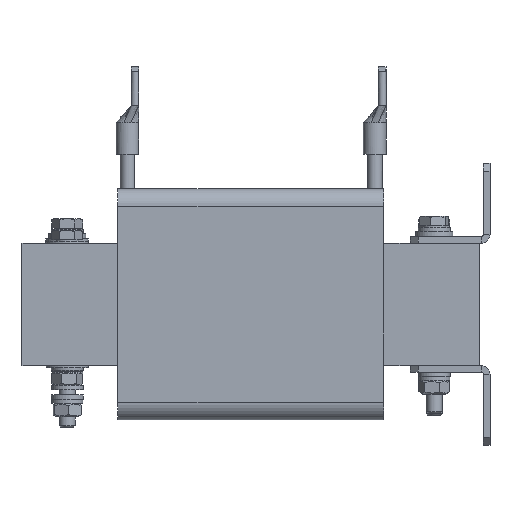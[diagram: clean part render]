
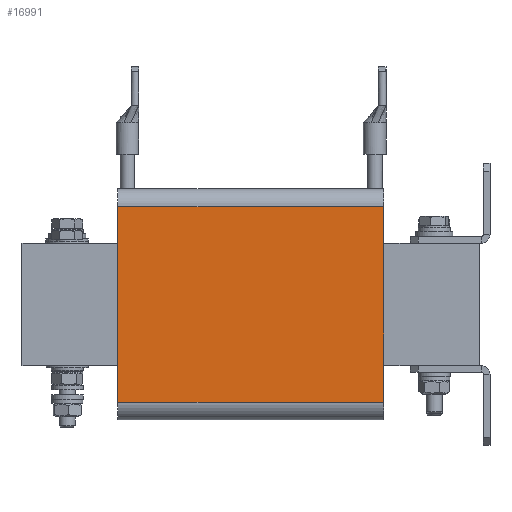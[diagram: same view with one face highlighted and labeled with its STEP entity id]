
A CAD part, left-side view. The second image highlights one B-rep face of the part: STEP entity #16991.
In plain terms, the highlighted planar face has unit normal (-1, 0, 0).
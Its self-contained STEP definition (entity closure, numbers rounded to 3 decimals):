
#1128=LINE('',#26307,#2528);
#1129=LINE('',#26313,#2529);
#1130=LINE('',#26314,#2530);
#1131=LINE('',#26315,#2531);
#2528=VECTOR('',#20780,10.);
#2529=VECTOR('',#20787,10.);
#2530=VECTOR('',#20788,10.);
#2531=VECTOR('',#20789,10.);
#3706=PLANE('',#18199);
#4894=FACE_OUTER_BOUND('',#6053,.T.);
#6053=EDGE_LOOP('',(#13250,#13251,#13252,#13253));
#8092=VERTEX_POINT('',#26305);
#8093=VERTEX_POINT('',#26306);
#8094=VERTEX_POINT('',#26311);
#8095=VERTEX_POINT('',#26312);
#10043=EDGE_CURVE('',#8092,#8093,#1128,.T.);
#10046=EDGE_CURVE('',#8094,#8095,#1129,.T.);
#10047=EDGE_CURVE('',#8092,#8094,#1130,.T.);
#10048=EDGE_CURVE('',#8095,#8093,#1131,.T.);
#13250=ORIENTED_EDGE('',*,*,#10046,.F.);
#13251=ORIENTED_EDGE('',*,*,#10047,.F.);
#13252=ORIENTED_EDGE('',*,*,#10043,.T.);
#13253=ORIENTED_EDGE('',*,*,#10048,.F.);
#16991=ADVANCED_FACE('',(#4894),#3706,.T.);
#18199=AXIS2_PLACEMENT_3D('',#26310,#20785,#20786);
#20780=DIRECTION('',(0.,-1.,0.));
#20785=DIRECTION('center_axis',(-1.,0.,0.));
#20786=DIRECTION('ref_axis',(0.,0.,1.));
#20787=DIRECTION('',(0.,-1.,0.));
#20788=DIRECTION('',(0.,0.,1.));
#20789=DIRECTION('',(0.,0.,-1.));
#26305=CARTESIAN_POINT('',(-101.,50.,-36.8));
#26306=CARTESIAN_POINT('',(-101.,-50.,-36.8));
#26307=CARTESIAN_POINT('',(-101.,0.,-36.8));
#26310=CARTESIAN_POINT('Origin',(-101.,0.,-36.8));
#26311=CARTESIAN_POINT('',(-101.,50.,36.8));
#26312=CARTESIAN_POINT('',(-101.,-50.,36.8));
#26313=CARTESIAN_POINT('',(-101.,0.,36.8));
#26314=CARTESIAN_POINT('',(-101.,50.,36.8));
#26315=CARTESIAN_POINT('',(-101.,-50.,36.8));
